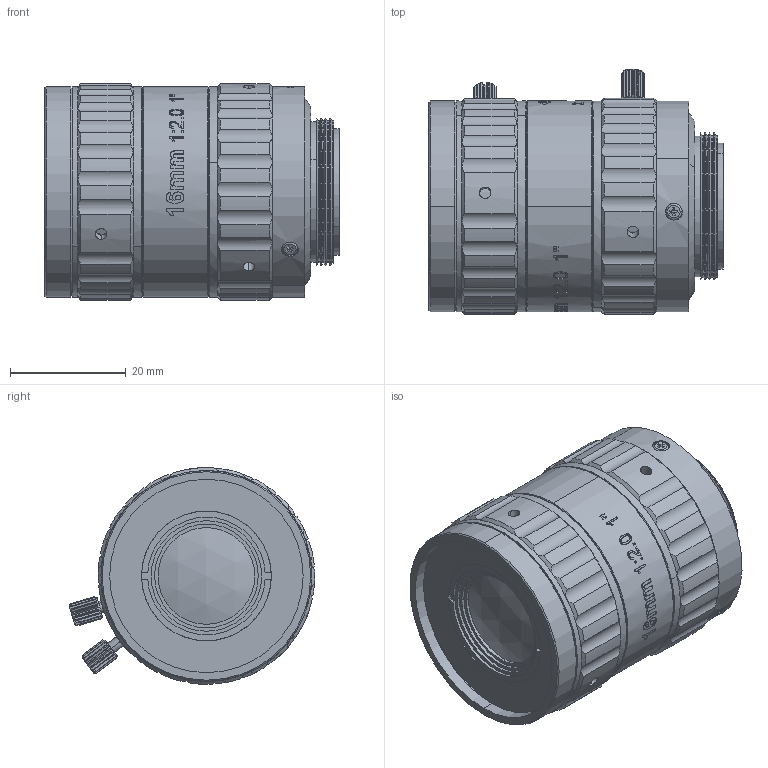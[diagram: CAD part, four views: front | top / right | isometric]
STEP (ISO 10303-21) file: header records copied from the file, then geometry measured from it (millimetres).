
FILE_DESCRIPTION((''),'2;1');
FILE_NAME('16MM_1INCH-A_ASM_ASM','2021-08-07T09:17:25',('Administrator'),(''),'CREO PARAMETRIC BY PTC INC, 2020053','CREO PARAMETRIC BY PTC INC, 2020053','');
FILE_SCHEMA(('CONFIG_CONTROL_DESIGN'));
Products named in the file (2): _16MM_1INCH-A_ASM; 16MM_1INCH-A_ASM_ASM
Assembly tree (1 placements, depth 2):
  16MM_1INCH-A_ASM_ASM
    _16MM_1INCH-A_ASM
Bounding box: 50.77 x 42.37 x 37.38 mm (x, y, z)
Volume: 23853.8 mm3; surface area: 27479.8 mm2
Topology: 2 solids, 4 shells, 1278 faces, 3411 edges, 2222 vertices
Faces by surface type: plane 404, cylinder 379, bspline 229, cone 151, extrusion 104, torus 7, sphere 4
Entity records: 54924 total; most frequent: CARTESIAN_POINT 25063, ORIENTED_EDGE 6750, DIRECTION 5191, EDGE_CURVE 3399, VERTEX_POINT 2222, AXIS2_PLACEMENT_3D 1857, VECTOR 1477, EDGE_LOOP 1421
